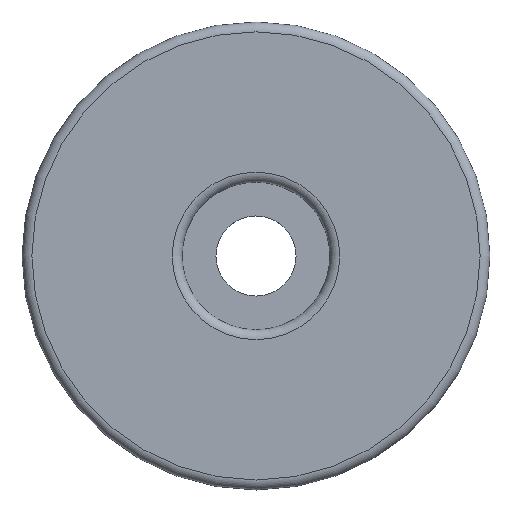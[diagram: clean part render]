
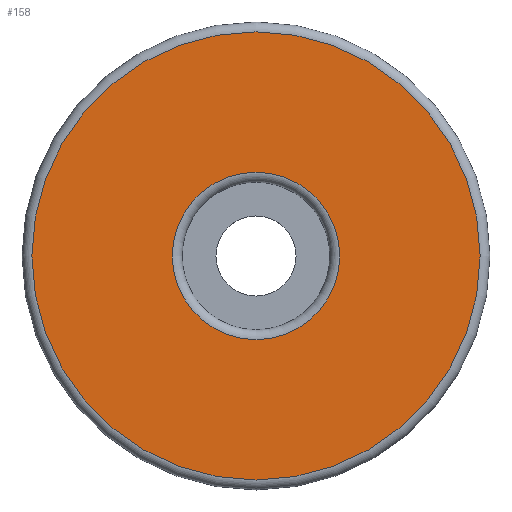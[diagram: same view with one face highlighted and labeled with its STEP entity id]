
A CAD part, top view. The second image highlights one B-rep face of the part: STEP entity #158.
In plain terms, the highlighted planar face has unit normal (0, 0, 1).
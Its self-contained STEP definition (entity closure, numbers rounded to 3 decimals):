
#25=FACE_BOUND('',#48,.T.);
#28=PLANE('',#202);
#36=FACE_OUTER_BOUND('',#47,.T.);
#47=EDGE_LOOP('',(#133,#134));
#48=EDGE_LOOP('',(#135));
#64=CIRCLE('',#199,3.4);
#67=CIRCLE('',#203,9.1);
#68=CIRCLE('',#204,9.1);
#80=VERTEX_POINT('',#300);
#82=VERTEX_POINT('',#306);
#83=VERTEX_POINT('',#307);
#98=EDGE_CURVE('',#80,#80,#64,.T.);
#101=EDGE_CURVE('',#82,#83,#67,.T.);
#102=EDGE_CURVE('',#83,#82,#68,.T.);
#133=ORIENTED_EDGE('',*,*,#101,.F.);
#134=ORIENTED_EDGE('',*,*,#102,.F.);
#135=ORIENTED_EDGE('',*,*,#98,.F.);
#158=ADVANCED_FACE('',(#36,#25),#28,.T.);
#199=AXIS2_PLACEMENT_3D('',#301,#248,#249);
#202=AXIS2_PLACEMENT_3D('',#305,#254,#255);
#203=AXIS2_PLACEMENT_3D('',#308,#256,#257);
#204=AXIS2_PLACEMENT_3D('',#309,#258,#259);
#248=DIRECTION('center_axis',(0.,0.,1.));
#249=DIRECTION('ref_axis',(-1.,0.,0.));
#254=DIRECTION('center_axis',(0.,0.,1.));
#255=DIRECTION('ref_axis',(1.,0.,0.));
#256=DIRECTION('center_axis',(0.,0.,-1.));
#257=DIRECTION('ref_axis',(-1.,0.,0.));
#258=DIRECTION('center_axis',(0.,0.,-1.));
#259=DIRECTION('ref_axis',(-1.,0.,0.));
#300=CARTESIAN_POINT('',(3.4,0.,3.5));
#301=CARTESIAN_POINT('Origin',(0.,0.,3.5));
#305=CARTESIAN_POINT('Origin',(0.,0.,
3.5));
#306=CARTESIAN_POINT('',(9.1,0.,3.5));
#307=CARTESIAN_POINT('',(-9.1,0.,3.5));
#308=CARTESIAN_POINT('Origin',(0.,0.,3.5));
#309=CARTESIAN_POINT('Origin',(0.,0.,3.5));
